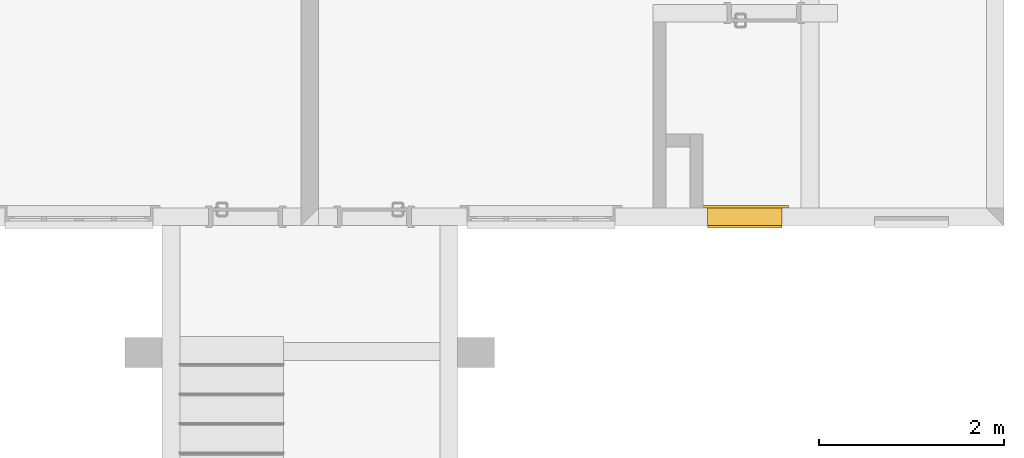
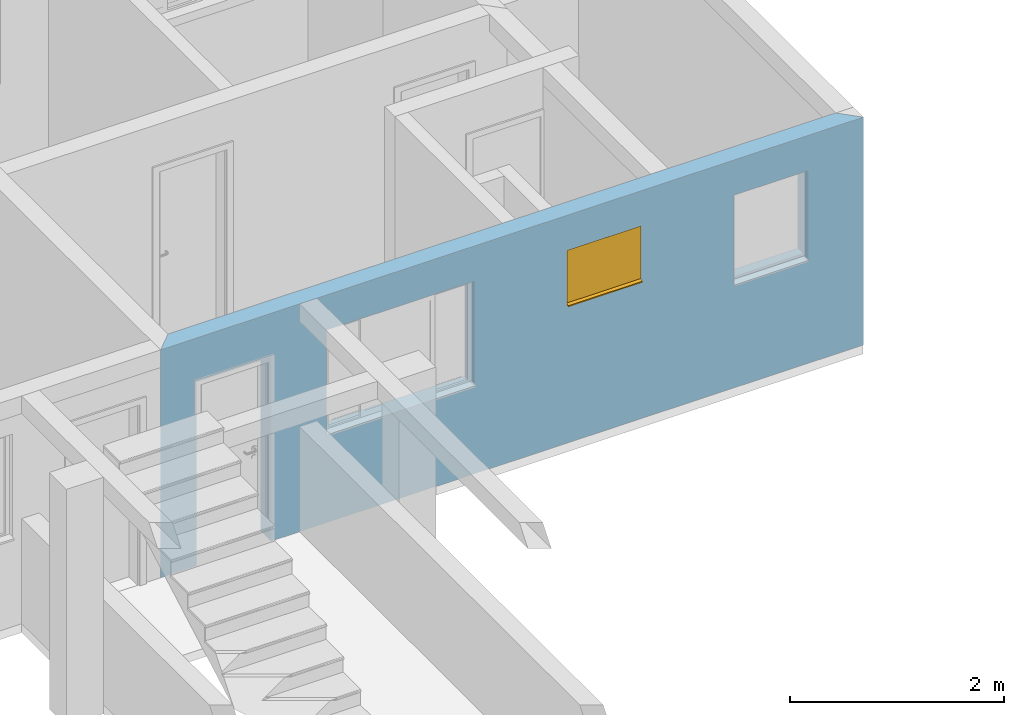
# One storey, part 30 of 47: 1 window, 4 openings, plus 1 element that does not belong to this part.
"""IFC2X3 building model written with IfcOpenShell, lengths in millimetres."""

from ifc_helpers import new_model, entity, si_unit, converted_unit, derived_unit, money_unit, direction, frame, origin_with_axes, origin_2d_with_axis, place, context, subcontext, project, spatial, polyline, rectangle, outline, extrude, open_shell, faceted_brep, surface_model, source, transform, mapped, material, layer, layer_set, layer_usage, type_object, element, fill, save


model = new_model("IFC2X3")

# Units and contexts
model_context = context("Model", 3, precision=0.01, world=origin_with_axes(), true_north=direction((0.0, 1.0)))
body_context = subcontext(model_context, "Body", "Model", "MODEL_VIEW")
ifc_project = project(units=[si_unit("LENGTHUNIT", "METRE", prefix="MILLI"), si_unit("AREAUNIT", "SQUARE_METRE"), si_unit("VOLUMEUNIT", "CUBIC_METRE"), converted_unit("PLANEANGLEUNIT", "DEGREE", entity("IfcPlaneAngleMeasure", 0.0174532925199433), si_unit("PLANEANGLEUNIT", "RADIAN"), dimensions=[0, 0, 0, 0, 0, 0, 0]), money_unit("USD"), converted_unit("TIMEUNIT", "Year", entity("IfcTimeMeasure", 31557600.0), si_unit("TIMEUNIT", "SECOND"), dimensions=[0, 0, 1, 0, 0, 0, 0]), si_unit("MASSUNIT", "GRAM", prefix="KILO"), si_unit("THERMODYNAMICTEMPERATUREUNIT", "DEGREE_CELSIUS"), si_unit("LUMINOUSINTENSITYUNIT", "LUMEN"), si_unit("ENERGYUNIT", "JOULE", prefix="MEGA"), derived_unit("THERMALCONDUCTANCEUNIT", [(si_unit("POWERUNIT", "WATT"), 1), (si_unit("LENGTHUNIT", "METRE"), -1), (si_unit("THERMODYNAMICTEMPERATUREUNIT", "KELVIN"), -1)]), derived_unit("SPECIFICHEATCAPACITYUNIT", [(si_unit("ENERGYUNIT", "JOULE"), 1), (si_unit("MASSUNIT", "GRAM", prefix="KILO"), -1), (si_unit("THERMODYNAMICTEMPERATUREUNIT", "KELVIN"), -1)]), derived_unit("MASSDENSITYUNIT", [(si_unit("MASSUNIT", "GRAM", prefix="KILO"), 1), (si_unit("VOLUMEUNIT", "CUBIC_METRE"), -1)])], contexts=[model_context])

# Site, building, storey
site_placement = place(None, origin_with_axes())
site = spatial("IfcSite", under=ifc_project, at=site_placement, Name="Local", CompositionType="ELEMENT")
building_placement = place(site_placement, origin_with_axes())
building = spatial("IfcBuilding", under=site, at=building_placement, Name="Construção", CompositionType="ELEMENT")
storey_placement = place(building_placement, origin_with_axes())
storey = spatial("IfcBuildingStorey", under=building, at=storey_placement, Name="Pavimento Tipo", CompositionType="ELEMENT", Elevation=0.0)

# Wall, openings, window
ifc_material = material(Name="Concreto - Estrutural")
ifc_layer = layer(ifc_material, 190.0, ventilated="UNKNOWN")
ifc_layer_set = layer_set([ifc_layer], Name="Concreto - Estrutural 190")
ifc_layer_usage = layer_usage(ifc_layer_set, "AXIS2", "NEGATIVE", 190.0)
wall_type = type_object("IfcWallType", Name="Concreto - Estrutural 190", PredefinedType="NOTDEFINED")
wall_placement = place(storey_placement, frame((1042.56699750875, 12396.98141771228, 0.0), z_axis=(0.0, 0.0, 1.0), x_axis=(1.0, 0.0, 0.0)))
wall = element("IfcWallStandardCase", 1, at=wall_placement, inside=storey, type_object=wall_type, material=ifc_layer_usage, Name="Apartamento 1 - Parede-003", context=body_context, shape_type="SweptSolid", body=[
    extrude(outline(polyline([(-190.0000000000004, 0.0), (7399.999999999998, 0.0), (7209.999999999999, 189.9999999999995), (0.0, 189.9999999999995), (-190.0000000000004, 0.0)])), origin_with_axes(), (0.0, 0.0, 1.0), 2600.0),
])
opening_1_placement = place(wall_placement, frame((2400.0, 0.0, 1000.0), z_axis=(0.0, 0.0, 1.0), x_axis=(1.0, 0.0, 0.0)))
element("IfcOpeningElement", 2, at=opening_1_placement, cuts=wall, Name="Apartamento 1 - J01", context=body_context, shape_type="SweptSolid", body=[
    extrude(rectangle(XDim=1599.999999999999, YDim=1200.0, at=origin_2d_with_axis()), frame((0.0, 50.00000000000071, 600.0000000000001), z_axis=(0.0, 1.0, 0.0), x_axis=(1.0, 0.0, 0.0)), (0.0, 0.0, 1.0), 330.0),
    extrude(rectangle(XDim=1599.999999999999, YDim=1200.0, at=origin_2d_with_axis()), frame((0.0, 50.00000000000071, 600.0000000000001), z_axis=(0.0, -1.0, 0.0), x_axis=(1.0, 0.0, 0.0)), (0.0, 0.0, 1.0), 240.0),
    extrude(rectangle(XDim=1750.0, YDim=1350.0, at=origin_2d_with_axis()), frame((0.0, 190.0000000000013, 600.0000000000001), z_axis=(0.0, 1.0, 0.0), x_axis=(1.0, 0.0, 0.0)), (0.0, 0.0, 1.0), 240.0),
])
opening_2_placement = place(wall_placement, frame((4600.0, 0.0, 1600.0), z_axis=(0.0, 0.0, 1.0), x_axis=(1.0, 0.0, 0.0)))
opening_2 = element("IfcOpeningElement", 3, at=opening_2_placement, cuts=wall, Name="Apartamento 1 - J02", context=body_context, shape_type="SweptSolid", body=[
    extrude(rectangle(XDim=800.0000000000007, YDim=600.0000000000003, at=origin_2d_with_axis()), frame((0.0, 189.9999999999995, 300.0000000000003), z_axis=(0.0, -1.0, 0.0), x_axis=(-1.0, 0.0, 0.0)), (0.0, 0.0, 1.0), 570.0000000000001),
    extrude(rectangle(XDim=800.0000000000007, YDim=30.00000000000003, at=origin_2d_with_axis()), frame((0.0, 35.00000000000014, -15.00000000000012), z_axis=(0.0, 1.0, 0.0), x_axis=(-1.0, 0.0, 0.0)), (0.0, 0.0, -1.0), 225.0),
    extrude(rectangle(XDim=949.9999999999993, YDim=750.0000000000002, at=origin_2d_with_axis()), frame((0.0, 189.9999999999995, 300.0000000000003), z_axis=(0.0, -1.0, 0.0), x_axis=(-1.0, 0.0, 0.0)), (0.0, 0.0, -1.0), 190.0),
])
opening_3_placement = place(wall_placement, frame((6399.999999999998, 0.0, 1200.0), z_axis=(0.0, 0.0, 1.0), x_axis=(1.0, 0.0, 0.0)))
element("IfcOpeningElement", 4, at=opening_3_placement, cuts=wall, Name="Apartamento 1 - J03", context=body_context, shape_type="SweptSolid", body=[
    extrude(rectangle(XDim=800.0000000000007, YDim=1000.0, at=origin_2d_with_axis()), frame((0.0, 50.00000000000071, 500.0), z_axis=(0.0, -1.0, 0.0), x_axis=(-1.0, 0.0, 0.0)), (0.0, 0.0, -1.0), 330.0),
    extrude(rectangle(XDim=800.0000000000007, YDim=1000.0, at=origin_2d_with_axis()), frame((0.0, 50.00000000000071, 500.0), z_axis=(0.0, 1.0, 0.0), x_axis=(-1.0, 0.0, 0.0)), (0.0, 0.0, -1.0), 240.0),
    extrude(rectangle(XDim=800.0000000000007, YDim=30.00000000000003, at=origin_2d_with_axis()), frame((0.0, 85.00000000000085, -15.00000000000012), z_axis=(0.0, 1.0, 0.0), x_axis=(-1.0, 0.0, 0.0)), (0.0, 0.0, -1.0), 225.0),
])
opening_4_placement = place(wall_placement, frame((600.0000000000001, 0.0, 0.0), z_axis=(0.0, 0.0, 1.0), x_axis=(1.0, 0.0, 0.0)))
element("IfcOpeningElement", 5, at=opening_4_placement, cuts=wall, Name="Apartamento 1 - P01", context=body_context, shape_type="SweptSolid", body=[
    extrude(rectangle(XDim=799.9999999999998, YDim=2100.0, at=origin_2d_with_axis()), frame((0.0, 189.9999999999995, 1050.0), z_axis=(0.0, 1.0, 0.0), x_axis=(-1.0, 0.0, 0.0)), (0.0, 0.0, -1.0), 570.0000000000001),
    extrude(rectangle(XDim=870.0000000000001, YDim=2135.0, at=origin_2d_with_axis()), frame((0.0, 189.9999999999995, 1067.5), z_axis=(0.0, 1.0, 0.0), x_axis=(-1.0, 0.0, 0.0)), (0.0, 0.0, 1.0), 190.0),
    extrude(rectangle(XDim=870.0000000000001, YDim=2135.0, at=origin_2d_with_axis()), frame((0.0, 0.0, 1067.5), z_axis=(0.0, -1.0, 0.0), x_axis=(-1.0, 0.0, 0.0)), (0.0, 0.0, 1.0), 190.0),
])
window_style = type_object("IfcWindowStyle", Name="Janela 27", ConstructionType="NOTDEFINED", OperationType="SINGLE_PANEL", ParameterTakesPrecedence=False, Sizeable=False)
shared_shape = source(origin_with_axes(), body_context, "Body", "SurfaceModel", [
    faceted_brep([(-400.0, -34.99999999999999, 0.0), (400.0, -34.99999999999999, 0.0), (400.0, -24.99999999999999, 0.0), (-400.0, -24.99999999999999, 0.0), (-400.0, -34.99999999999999, -30.0), (400.0, -34.99999999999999, -29.99999999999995), (400.0, 25.0, -29.99999999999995), (400.0, 25.0, -17.02704173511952), (400.0, -24.99999999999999, -9.999999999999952), (-400.0, -24.99999999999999, -10.0), (-400.0, 25.0, -17.02704173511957), (-400.0, 25.0, -30.0)], [[[0, 1, 2, 3]], [[4, 5, 1, 0]], [[1, 5, 6, 7, 8, 2]], [[3, 2, 8, 9]], [[0, 3, 9, 10, 11, 4]], [[11, 6, 5, 4]], [[10, 7, 6, 11]], [[9, 8, 7, 10]]]),
    faceted_brep([(-400.0, -49.99999999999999, 0.0), (400.0, -49.99999999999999, 0.0), (400.0, -190.0, 0.0), (-400.0, -190.0, 0.0), (-400.0, -50.00000000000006, 600.0), (400.0, -50.00000000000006, 600.0), (-375.0, -49.99999999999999, 24.99999999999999), (375.0, -49.99999999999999, 24.99999999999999), (375.0, -50.00000000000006, 575.0), (-375.0, -50.00000000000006, 575.0), (400.0, -190.0000000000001, 600.0), (-400.0, -190.0000000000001, 600.0), (-375.0, -190.0, 24.99999999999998), (-375.0, -190.0000000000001, 575.0), (375.0, -190.0000000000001, 575.0), (375.0, -190.0, 24.99999999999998)], [[[0, 1, 2, 3]], [[0, 4, 5, 1], [6, 7, 8, 9]], [[1, 5, 10, 2]], [[3, 2, 10, 11], [12, 13, 14, 15]], [[4, 0, 3, 11]], [[5, 4, 11, 10]], [[7, 6, 12, 15]], [[8, 7, 15, 14]], [[9, 8, 14, 13]], [[6, 9, 13, 12]]]),
    faceted_brep([(-475.0, -215.0, -75.00000000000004), (-475.0, -190.0, -75.00000000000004), (-375.0, -190.0, 24.99999999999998), (-375.0, -215.0, 24.99999999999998), (-475.0, -215.0000000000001, 675.0), (-475.0, -190.0000000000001, 675.0), (-375.0, -190.0000000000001, 575.0), (-375.0, -215.0000000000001, 575.0)], [[[0, 1, 2, 3]], [[4, 5, 1, 0]], [[1, 5, 6, 2]], [[3, 2, 6, 7]], [[0, 3, 7, 4]], [[7, 6, 5, 4]]]),
    faceted_brep([(475.0, -215.0000000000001, 675.0), (475.0, -190.0000000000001, 675.0), (375.0, -190.0000000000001, 575.0), (375.0, -215.0000000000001, 575.0), (475.0, -215.0, -75.00000000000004), (475.0, -190.0, -75.00000000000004), (375.0, -190.0, 24.99999999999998), (375.0, -215.0, 24.99999999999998)], [[[0, 1, 2, 3]], [[4, 5, 1, 0]], [[1, 5, 6, 2]], [[3, 2, 6, 7]], [[0, 3, 7, 4]], [[7, 6, 5, 4]]]),
    faceted_brep([(475.0, -215.0, -75.00000000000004), (475.0, -190.0, -75.00000000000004), (375.0, -190.0, 24.99999999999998), (375.0, -215.0, 24.99999999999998), (-475.0, -215.0, -75.00000000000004), (-475.0, -190.0, -75.00000000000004), (-375.0, -190.0, 24.99999999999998), (-375.0, -215.0, 24.99999999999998)], [[[0, 1, 2, 3]], [[4, 5, 1, 0]], [[1, 5, 6, 2]], [[3, 2, 6, 7]], [[0, 3, 7, 4]], [[7, 6, 5, 4]]]),
    faceted_brep([(-475.0, -215.0000000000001, 674.9999999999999), (-475.0, -190.0000000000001, 674.9999999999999), (-375.0, -190.0000000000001, 575.0), (-375.0, -215.0000000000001, 575.0), (475.0, -215.0000000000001, 674.9999999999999), (475.0, -190.0000000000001, 674.9999999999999), (375.0, -190.0000000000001, 575.0), (375.0, -215.0000000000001, 575.0)], [[[0, 1, 2, 3]], [[4, 5, 1, 0]], [[1, 5, 6, 2]], [[3, 2, 6, 7]], [[0, 3, 7, 4]], [[7, 6, 5, 4]]]),
    faceted_brep([(-373.0000000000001, 0.0, 552.9999999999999), (-400.0, 0.0, 552.9999999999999), (-400.0, -50.00000000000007, 552.9999999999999), (-353.0000000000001, -50.00000000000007, 552.9999999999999), (-353.0000000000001, -20.00000000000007, 552.9999999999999), (-373.0000000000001, -20.00000000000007, 552.9999999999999), (-373.0000000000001, 0.0, 46.99999999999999), (-400.0, 0.0, 46.99999999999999), (-400.0, -50.00000000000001, 46.99999999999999), (-353.0000000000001, -50.00000000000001, 46.99999999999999), (-353.0000000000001, -20.00000000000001, 46.99999999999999), (-373.0000000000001, -20.00000000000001, 47.00000000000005)], [[[0, 1, 2, 3, 4, 5]], [[6, 7, 1, 0]], [[1, 7, 8, 2]], [[2, 8, 9, 3]], [[4, 3, 9, 10]], [[10, 11, 5, 4]], [[5, 11, 6, 0]], [[11, 10, 9, 8, 7, 6]]]),
    faceted_brep([(353.0000000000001, -20.00000000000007, 552.9999999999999), (353.0000000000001, -50.00000000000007, 552.9999999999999), (400.0, -50.00000000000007, 552.9999999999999), (400.0, 0.0, 552.9999999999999), (373.0000000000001, 0.0, 552.9999999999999), (373.0000000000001, -20.00000000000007, 552.9999999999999), (353.0000000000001, -20.00000000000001, 46.99999999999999), (353.0000000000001, -50.00000000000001, 46.99999999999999), (400.0, -50.00000000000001, 46.99999999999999), (400.0, 0.0, 46.99999999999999), (373.0000000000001, 0.0, 46.99999999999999), (373.0000000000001, -20.00000000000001, 46.99999999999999)], [[[0, 1, 2, 3, 4, 5]], [[6, 7, 1, 0]], [[8, 2, 1, 7]], [[9, 3, 2, 8]], [[4, 3, 9, 10]], [[10, 11, 5, 4]], [[5, 11, 6, 0]], [[11, 10, 9, 8, 7, 6]]]),
    faceted_brep([(353.0000000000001, -20.00000000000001, 46.99999999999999), (353.0000000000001, -50.00000000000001, 46.99999999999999), (400.0, -50.00000000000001, 46.99999999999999), (400.0, 0.0, 46.99999999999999), (373.0000000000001, 0.0, 46.99999999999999), (373.0000000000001, -20.00000000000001, 46.99999999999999), (-353.0000000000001, -20.00000000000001, 46.99999999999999), (-353.0000000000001, -50.00000000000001, 46.99999999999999), (-400.0, -50.00000000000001, 46.99999999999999), (-400.0, -50.0, 0.0), (400.0, -50.0, 0.0), (400.0, 0.0, 0.0), (-373.0000000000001, 0.0, 27.00000000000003), (373.0000000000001, 0.0, 27.00000000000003), (-400.0, 0.0, 0.0), (-400.0, 0.0, 46.99999999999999), (-373.0000000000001, 0.0, 46.99999999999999), (373.0000000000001, -20.0, 27.00000000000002), (-373.0000000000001, -20.0, 27.00000000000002), (-373.0000000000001, -20.00000000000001, 47.00000000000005)], [[[0, 1, 2, 3, 4, 5]], [[6, 7, 1, 0]], [[8, 9, 10, 2, 1, 7]], [[11, 3, 2, 10]], [[12, 13, 4, 3, 11, 14, 15, 16]], [[13, 17, 5, 4]], [[5, 17, 18, 19, 6, 0]], [[19, 16, 15, 8, 7, 6]], [[15, 14, 9, 8]], [[14, 11, 10, 9]], [[12, 18, 17, 13]], [[19, 18, 12, 16]]]),
    faceted_brep([(-373.0000000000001, 0.0, 552.9999999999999), (-400.0, 0.0, 552.9999999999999), (-400.0, 0.0, 600.0), (400.0, 0.0, 600.0), (400.0, 0.0, 552.9999999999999), (373.0000000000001, 0.0, 552.9999999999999), (373.0000000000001, 0.0, 573.0), (-373.0000000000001, 0.0, 573.0), (-373.0000000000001, -20.00000000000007, 552.9999999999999), (-353.0000000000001, -20.00000000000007, 552.9999999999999), (-353.0000000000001, -50.00000000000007, 552.9999999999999), (-400.0, -50.00000000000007, 552.9999999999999), (-400.0, -50.00000000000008, 600.0), (400.0, -50.00000000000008, 600.0), (400.0, -50.00000000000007, 552.9999999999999), (373.0000000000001, -20.00000000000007, 552.9999999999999), (353.0000000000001, -50.00000000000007, 552.9999999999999), (353.0000000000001, -20.00000000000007, 552.9999999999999), (373.0000000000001, -20.00000000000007, 573.0), (-373.0000000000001, -20.00000000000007, 573.0)], [[[0, 1, 2, 3, 4, 5, 6, 7]], [[8, 9, 10, 11, 1, 0]], [[2, 1, 11, 12]], [[3, 2, 12, 13]], [[4, 3, 13, 14]], [[15, 5, 4, 14, 16, 17]], [[5, 15, 18, 6]], [[6, 18, 19, 7]], [[7, 19, 8, 0]], [[17, 9, 8, 19, 18, 15]], [[17, 16, 10, 9]], [[14, 13, 12, 11, 10, 16]]]),
    faceted_brep([(-323.0000000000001, -20.00000000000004, 522.9999999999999), (-323.0000000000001, 0.0, 522.9999999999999), (-373.0000000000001, 0.0, 522.9999999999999), (-373.0000000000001, -20.00000000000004, 522.9999999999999), (-323.0000000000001, -19.99999999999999, 77.00000000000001), (-323.0000000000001, 0.0, 77.00000000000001), (-373.0000000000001, 0.0, 77.00000000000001), (-373.0000000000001, -19.99999999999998, 77.00000000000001)], [[[0, 1, 2, 3]], [[4, 5, 1, 0]], [[1, 5, 6, 2]], [[3, 2, 6, 7]], [[0, 3, 7, 4]], [[7, 6, 5, 4]]]),
    faceted_brep([(323.0000000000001, -20.00000000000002, 77.00000000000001), (323.0000000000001, 0.0, 77.00000000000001), (373.0000000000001, 0.0, 77.00000000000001), (373.0000000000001, -20.00000000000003, 77.00000000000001), (323.0000000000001, -20.00000000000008, 522.9999999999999), (323.0000000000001, 0.0, 522.9999999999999), (373.0000000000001, 0.0, 522.9999999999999), (373.0000000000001, -20.00000000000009, 522.9999999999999)], [[[0, 1, 2, 3]], [[4, 5, 1, 0]], [[1, 5, 6, 2]], [[3, 2, 6, 7]], [[0, 3, 7, 4]], [[7, 6, 5, 4]]]),
    faceted_brep([(373.0000000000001, -20.00000000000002, 27.0), (373.0000000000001, 0.0, 27.00000000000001), (373.0000000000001, 0.0, 77.00000000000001), (373.0000000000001, -20.00000000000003, 77.00000000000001), (-373.0000000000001, -19.99999999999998, 27.0), (-373.0000000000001, 0.0, 27.00000000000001), (-373.0000000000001, 0.0, 77.00000000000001), (-323.0000000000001, 0.0, 77.00000000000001), (323.0000000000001, 0.0, 77.00000000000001), (323.0000000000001, -20.00000000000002, 77.00000000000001), (-323.0000000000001, -19.99999999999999, 77.00000000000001), (-373.0000000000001, -19.99999999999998, 77.00000000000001)], [[[0, 1, 2, 3]], [[4, 5, 1, 0]], [[1, 5, 6, 7, 8, 2]], [[3, 2, 8, 9]], [[0, 3, 9, 10, 11, 4]], [[11, 6, 5, 4]], [[10, 7, 6, 11]], [[9, 8, 7, 10]]]),
    faceted_brep([(-373.0000000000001, -20.00000000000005, 573.0), (-373.0000000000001, 0.0, 573.0), (-373.0000000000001, 0.0, 522.9999999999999), (-373.0000000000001, -20.00000000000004, 522.9999999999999), (373.0000000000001, -20.00000000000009, 573.0), (373.0000000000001, 0.0, 573.0), (373.0000000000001, 0.0, 522.9999999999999), (323.0000000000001, 0.0, 522.9999999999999), (-323.0000000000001, 0.0, 522.9999999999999), (-323.0000000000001, -20.00000000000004, 522.9999999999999), (323.0000000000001, -20.00000000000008, 522.9999999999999), (373.0000000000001, -20.00000000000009, 522.9999999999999)], [[[0, 1, 2, 3]], [[4, 5, 1, 0]], [[1, 5, 6, 7, 8, 2]], [[3, 2, 8, 9]], [[0, 3, 9, 10, 11, 4]], [[11, 6, 5, 4]], [[10, 7, 6, 11]], [[9, 8, 7, 10]]]),
    surface_model("IfcShellBasedSurfaceModel", [(-323.0000000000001, -20.00000000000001, 77.00000000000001), (323.0000000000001, -20.00000000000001, 77.00000000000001), (323.0000000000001, -20.00000000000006, 522.9999999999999), (-323.0000000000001, -20.00000000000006, 522.9999999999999)], [open_shell([[[0, 1, 2, 3]]])]),
    surface_model("IfcShellBasedSurfaceModel", [(-323.0000000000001, 0.0, 77.00000000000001), (-323.0000000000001, 0.0, 522.9999999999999), (323.0000000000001, 0.0, 522.9999999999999), (323.0000000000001, 0.0, 77.00000000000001)], [open_shell([[[0, 1, 2, 3]]])]),
])
window_placement = place(opening_2_placement, frame((400.0000000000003, 0.0, 0.0), z_axis=(0.0, 0.0, 1.0), x_axis=(-1.0, 0.0, 0.0)))
window = element("IfcWindow", 6, at=window_placement, inside=storey, type_object=window_style, Name="Apartamento 1 - J02", ObjectType="WINDOW", OverallHeight=600.0, OverallWidth=800.0, context=body_context, shape_type="MappedRepresentation", body=[
    mapped(shared_shape, transform((400.0000000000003, 0.0, 0.0))),
])
fill(opening_2, window)

save(model, "model.ifc")
